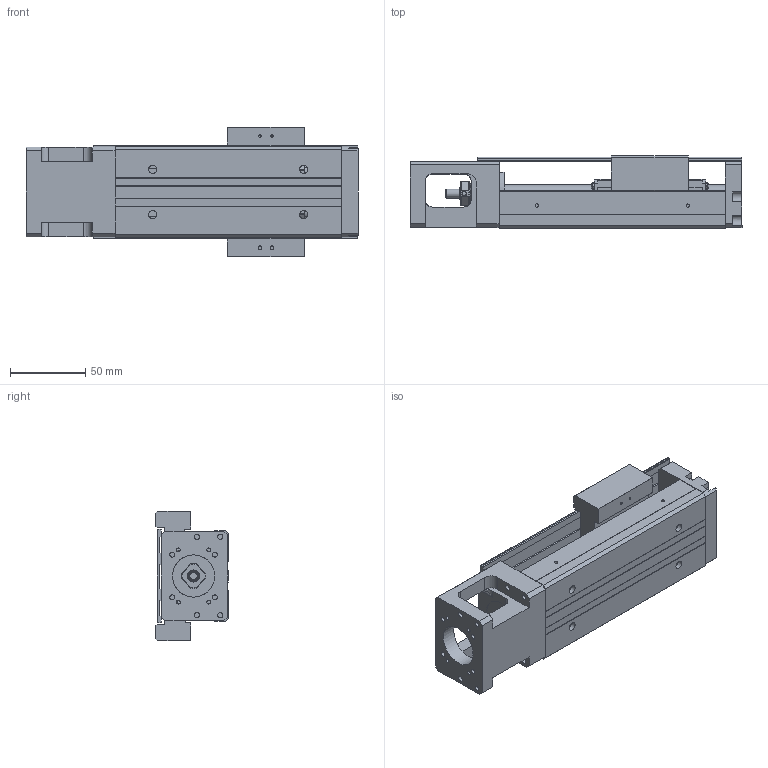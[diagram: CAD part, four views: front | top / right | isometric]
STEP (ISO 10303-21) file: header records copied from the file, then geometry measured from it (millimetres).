
FILE_DESCRIPTION(/* description */ (''),/* implementation_level */ '2;1');
FILE_NAME(/* name */ '33L-150C.stp',/* time_stamp */ '2016-12-20T13:16:56+08:00',/* author */ (''),/* organization */ (''),/* preprocessor_version */ 'ST-DEVELOPER v11',/* originating_system */ 'SIEMENS UGS NX 6.0',/* authorisation */ '');
FILE_SCHEMA (('AUTOMOTIVE_DESIGN { 1 0 10303 214 1 1 1 1 }'));
Length unit declared in the file: millimetre
Products named in the file (1): model4
Bounding box: 220 x 47.95 x 86 mm (x, y, z)
Volume: 389294.5 mm3; surface area: 126899.1 mm2
Topology: 7 solids, 12 shells, 682 faces, 1750 edges, 1158 vertices
Faces by surface type: plane 414, cylinder 181, bspline 31, cone 24, extrusion 21, torus 9, revolution 2
Full cylindrical faces by diameter (mm): 1.6 x3, 1.65 x4, 2.15 x2, 2.42 x4, 2.45 x8, 2.5 x10, 3 x3, 3.2 x4, 3.3 x4, 3.4 x3, 3.5 x10, 3.969 x1, 4 x6, 4.001 x1, 4.135 x4, 4.2 x4, 5.5 x4, 6 x5, 7.6 x1, 8 x5, 9.5 x4, 10.72 x3, 11.8 x2, 12 x1, 12.8 x1, 13 x2, 14 x1, 17.38 x3, 21.5 x1, 22 x2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
Entity records: 35909 total; most frequent: CARTESIAN_POINT 16261, DIRECTION 3134, ORIENTED_EDGE 3072, EDGE_CURVE 1536, VERTEX_POINT 1085, AXIS2_PLACEMENT_3D 1082, VECTOR 968, EDGE_LOOP 961
